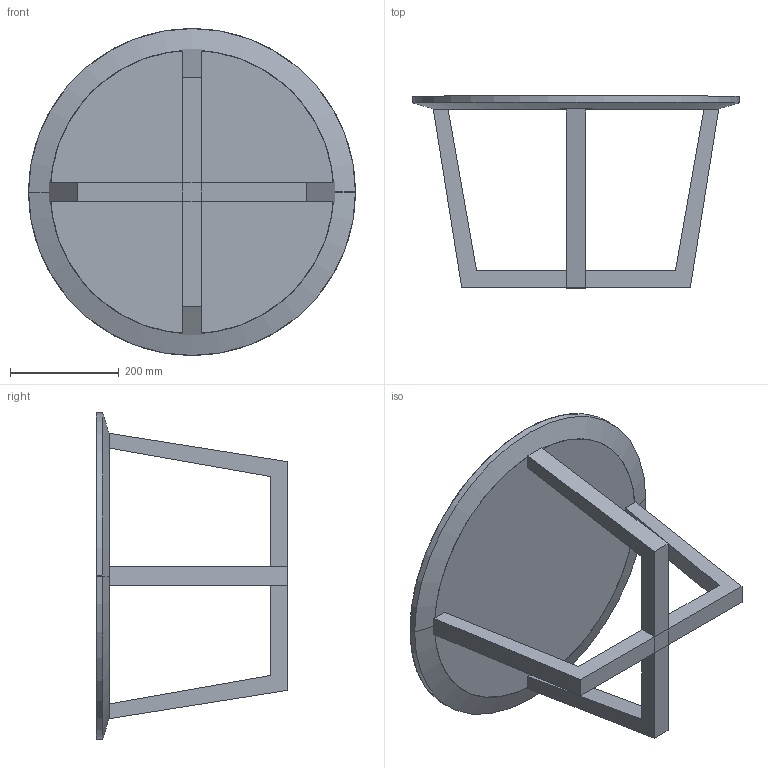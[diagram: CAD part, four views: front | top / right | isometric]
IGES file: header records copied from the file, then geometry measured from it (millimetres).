
Start section: SolidWorks IGES file using analytic representation for surfaces
Global section: file name: P:\3D CAD BLOCKS\us\COFFEE TABLE\COFFEE TABLE.IGS; native system: SolidWorks 2012; preprocessor: SolidWorks 2012; author: adam; date: 140220.190938; units: millimetre
Bounding box: 600 x 352 x 600 mm (x, y, z)
Surface area: 867534.9 mm2 (no closed solid volume)
Topology: 0 solids, 0 shells, 26 faces, 240 edges, 240 vertices
Faces by surface type: bspline 22, revolution 4
